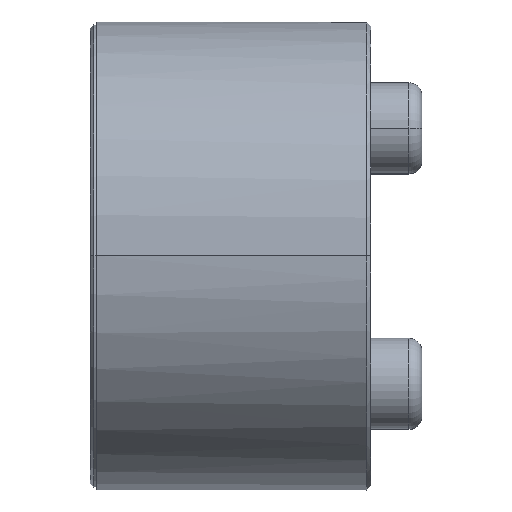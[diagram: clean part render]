
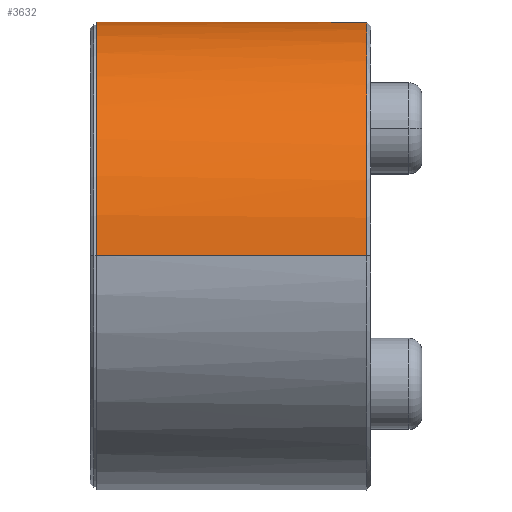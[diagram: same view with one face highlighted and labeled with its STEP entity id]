
A CAD part, top view. The second image highlights one B-rep face of the part: STEP entity #3632.
In plain terms, the highlighted cylindrical face has radius 17.5 mm (diameter 35 mm), a partial arc.
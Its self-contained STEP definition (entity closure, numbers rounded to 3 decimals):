
#26 = B_SPLINE_CURVE_WITH_KNOTS ( 'NONE', 3,
 ( #2365, #3652, #3445, #4082, #3134, #1183, #2792, #547, #1836, #228, #2476, #3762, #866, #2153, #358, #1948, #740, #1711, #427, #3936, #996, #3239, #1651, #341, #2669, #2939, #3869, #1630, #1671, #2961, #2604, #3552, #1971, #3003 ),
 .UNSPECIFIED., .F., .F.,
 ( 4, 2, 2, 2, 2, 2, 2, 2, 2, 2, 2, 2, 2, 2, 2, 2, 4 ),
 ( 0.245, 0.277, 0.309, 0.341, 0.373, 0.405, 0.436, 0.468, 0.5, 0.532, 0.564, 0.595, 0.627, 0.659, 0.691, 0.723, 0.755 ),
 .UNSPECIFIED. ) ;
#228 = CARTESIAN_POINT ( 'NONE',  ( 20.686, 13.184, 11.565 ) ) ;
#300 = ORIENTED_EDGE ( 'NONE', *, *, #3765, .F. ) ;
#341 = CARTESIAN_POINT ( 'NONE',  ( 20.686, 13.914, -10.675 ) ) ;
#358 = CARTESIAN_POINT ( 'NONE',  ( 20.686, 16.94, 4.538 ) ) ;
#427 = CARTESIAN_POINT ( 'NONE',  ( 20.686, 17.387, -2.291 ) ) ;
#547 = CARTESIAN_POINT ( 'NONE',  ( 20.686, 10.675, 13.915 ) ) ;
#614 = ORIENTED_EDGE ( 'NONE', *, *, #1584, .T. ) ;
#672 = VERTEX_POINT ( 'NONE', #2042 ) ;
#740 = CARTESIAN_POINT ( 'NONE',  ( 20.686, 17.5, 1.145 ) ) ;
#746 = EDGE_CURVE ( 'NONE', #3868, #672, #2446, .T. ) ;
#854 = AXIS2_PLACEMENT_3D ( 'NONE', #1505, #2797, #2181 ) ;
#866 = CARTESIAN_POINT ( 'NONE',  ( 20.686, 15.73, 7.755 ) ) ;
#996 = CARTESIAN_POINT ( 'NONE',  ( 20.686, 16.606, -5.639 ) ) ;
#1183 = CARTESIAN_POINT ( 'NONE',  ( 20.686, 7.755, 15.73 ) ) ;
#1307 = DIRECTION ( 'NONE',  ( -1., 0., 0. ) ) ;
#1316 = VERTEX_POINT ( 'NONE', #3810 ) ;
#1325 = CIRCLE ( 'NONE', #2813, 17.5 ) ;
#1505 = CARTESIAN_POINT ( 'NONE',  ( 0.486, 0., 0. ) ) ;
#1510 = CARTESIAN_POINT ( 'NONE',  ( 0.486, 0., -17.5 ) ) ;
#1584 = EDGE_CURVE ( 'NONE', #2288, #672, #26, .T. ) ;
#1630 = CARTESIAN_POINT ( 'NONE',  ( 20.686, 8.77, -15.187 ) ) ;
#1651 = CARTESIAN_POINT ( 'NONE',  ( 20.686, 15.187, -8.77 ) ) ;
#1671 = CARTESIAN_POINT ( 'NONE',  ( 20.686, 7.755, -15.73 ) ) ;
#1711 = CARTESIAN_POINT ( 'NONE',  ( 20.686, 17.5, -1.145 ) ) ;
#1773 = EDGE_CURVE ( 'NONE', #1316, #2288, #4040, .T. ) ;
#1836 = CARTESIAN_POINT ( 'NONE',  ( 20.686, 11.564, 13.184 ) ) ;
#1894 = CARTESIAN_POINT ( 'NONE',  ( 20.686, -0.001, 17.5 ) ) ;
#1948 = CARTESIAN_POINT ( 'NONE',  ( 20.686, 17.387, 2.291 ) ) ;
#1971 = CARTESIAN_POINT ( 'NONE',  ( 20.686, 1.145, -17.5 ) ) ;
#2042 = CARTESIAN_POINT ( 'NONE',  ( 20.686, -0.001, -17.5 ) ) ;
#2120 = CARTESIAN_POINT ( 'NONE',  ( 0.486, 0., 17.5 ) ) ;
#2153 = CARTESIAN_POINT ( 'NONE',  ( 20.686, 16.606, 5.639 ) ) ;
#2181 = DIRECTION ( 'NONE',  ( 0., 0., 1. ) ) ;
#2288 = VERTEX_POINT ( 'NONE', #1894 ) ;
#2303 = CARTESIAN_POINT ( 'NONE',  ( 0.486, 0., 0. ) ) ;
#2334 = VECTOR ( 'NONE', #2468, 1000. ) ;
#2365 = CARTESIAN_POINT ( 'NONE',  ( 20.686, -0.001, 17.5 ) ) ;
#2369 = DIRECTION ( 'NONE',  ( 1., 0., 0. ) ) ;
#2446 = LINE ( 'NONE', #1510, #2334 ) ;
#2468 = DIRECTION ( 'NONE',  ( 1., 0., 0. ) ) ;
#2476 = CARTESIAN_POINT ( 'NONE',  ( 20.686, 13.914, 10.675 ) ) ;
#2604 = CARTESIAN_POINT ( 'NONE',  ( 20.686, 4.537, -16.94 ) ) ;
#2669 = CARTESIAN_POINT ( 'NONE',  ( 20.686, 13.184, -11.565 ) ) ;
#2792 = CARTESIAN_POINT ( 'NONE',  ( 20.686, 8.77, 15.187 ) ) ;
#2797 = DIRECTION ( 'NONE',  ( 1., 0., 0. ) ) ;
#2813 = AXIS2_PLACEMENT_3D ( 'NONE', #2303, #1307, #3867 ) ;
#2862 = FACE_OUTER_BOUND ( 'NONE', #3573, .T. ) ;
#2939 = CARTESIAN_POINT ( 'NONE',  ( 20.686, 11.564, -13.184 ) ) ;
#2961 = CARTESIAN_POINT ( 'NONE',  ( 20.686, 5.638, -16.606 ) ) ;
#3003 = CARTESIAN_POINT ( 'NONE',  ( 20.686, -0.001, -17.5 ) ) ;
#3134 = CARTESIAN_POINT ( 'NONE',  ( 20.686, 5.638, 16.606 ) ) ;
#3239 = CARTESIAN_POINT ( 'NONE',  ( 20.686, 15.73, -7.755 ) ) ;
#3403 = CARTESIAN_POINT ( 'NONE',  ( 0.486, 0., -17.5 ) ) ;
#3445 = CARTESIAN_POINT ( 'NONE',  ( 20.686, 2.29, 17.387 ) ) ;
#3456 = ORIENTED_EDGE ( 'NONE', *, *, #746, .F. ) ;
#3521 = VECTOR ( 'NONE', #2369, 1000. ) ;
#3552 = CARTESIAN_POINT ( 'NONE',  ( 20.686, 2.29, -17.387 ) ) ;
#3573 = EDGE_LOOP ( 'NONE', ( #3456, #300, #4187, #614 ) ) ;
#3632 = ADVANCED_FACE ( 'NONE', ( #2862 ), #4146, .T. ) ;
#3652 = CARTESIAN_POINT ( 'NONE',  ( 20.686, 1.145, 17.5 ) ) ;
#3762 = CARTESIAN_POINT ( 'NONE',  ( 20.686, 15.187, 8.77 ) ) ;
#3765 = EDGE_CURVE ( 'NONE', #1316, #3868, #1325, .T. ) ;
#3810 = CARTESIAN_POINT ( 'NONE',  ( 0.486, 0., 17.5 ) ) ;
#3867 = DIRECTION ( 'NONE',  ( 0., -0.998, 0.057 ) ) ;
#3868 = VERTEX_POINT ( 'NONE', #3403 ) ;
#3869 = CARTESIAN_POINT ( 'NONE',  ( 20.686, 10.675, -13.915 ) ) ;
#3936 = CARTESIAN_POINT ( 'NONE',  ( 20.686, 16.94, -4.538 ) ) ;
#4040 = LINE ( 'NONE', #2120, #3521 ) ;
#4082 = CARTESIAN_POINT ( 'NONE',  ( 20.686, 4.537, 16.94 ) ) ;
#4146 = CYLINDRICAL_SURFACE ( 'NONE', #854, 17.5 ) ;
#4187 = ORIENTED_EDGE ( 'NONE', *, *, #1773, .T. ) ;
